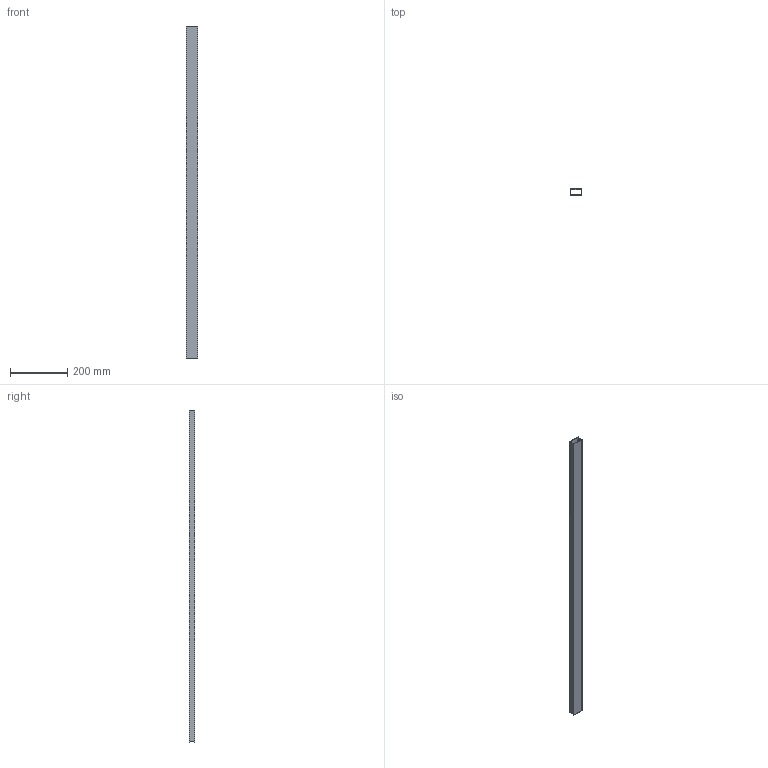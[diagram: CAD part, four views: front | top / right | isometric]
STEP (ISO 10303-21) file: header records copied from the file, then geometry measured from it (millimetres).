
FILE_DESCRIPTION (( 'STEP AP203' ), '1' );
FILE_NAME ('MILADESIGN profil stolového rámu G5 ST541 - 116_218000 a 219120 a 219624 a 220130_3D.STEP', '2021-01-05T12:57:38', ( '' ), ( '' ), 'SwSTEP 2.0', 'SolidWorks 2019', '' );
FILE_SCHEMA (( 'CONFIG_CONTROL_DESIGN' ));
Length unit declared in the file: millimetre
Products named in the file (1): MILADESIGN profil stolového rámu G5 ST541 - 116_218000 a 219120 a 219624 a 220130_3D
Bounding box: 40 x 20 x 1160 mm (x, y, z)
Volume: 197396.2 mm3; surface area: 264025.7 mm2
Topology: 1 solids, 1 shells, 48 faces, 144 edges, 96 vertices
Faces by surface type: plane 44, cylinder 4
Entity records: 1709 total; most frequent: CARTESIAN_POINT 289, ORIENTED_EDGE 288, DIRECTION 250, EDGE_CURVE 144, VECTOR 136, LINE 136, VERTEX_POINT 96, EDGE_LOOP 64
